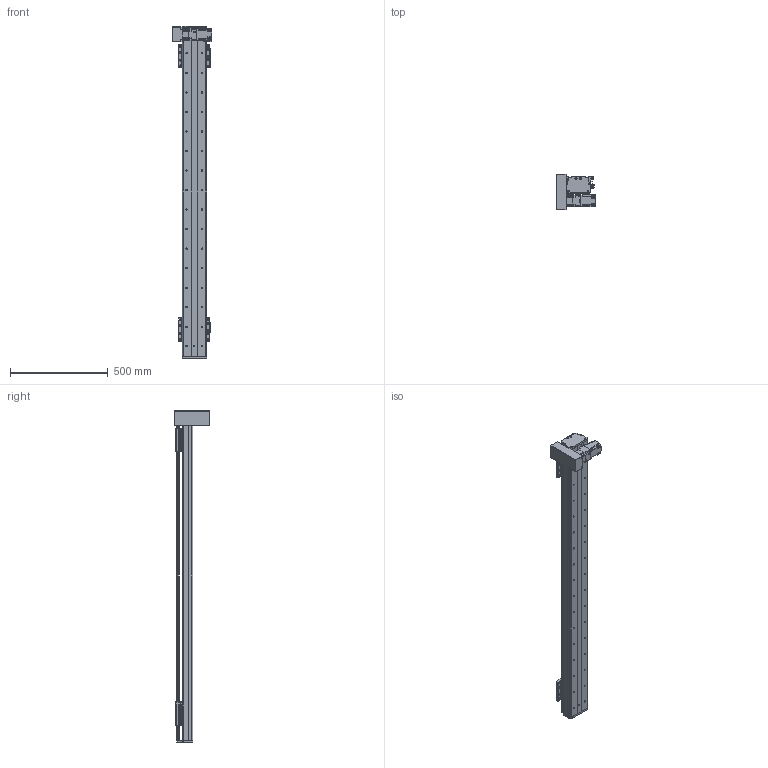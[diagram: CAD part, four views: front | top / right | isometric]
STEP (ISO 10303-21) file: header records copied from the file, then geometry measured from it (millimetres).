
FILE_DESCRIPTION(/* description */ (''),/* implementation_level */ '2;1');
FILE_NAME(/* name */ 'C:\Users\PC\Desktop\3D도면\STEP\DSB125-DL2G-W1400-R.stp',/* time_stamp */ '2018-06-21T14:53:02+09:00',/* author */ ('PC'),/* organization */ (''),/* preprocessor_version */ 'ST-DEVELOPER v16.5',/* originating_system */ 'Autodesk Inventor 2017',/* authorisation */ '');
FILE_SCHEMA (('AUTOMOTIVE_DESIGN { 1 0 10303 214 3 1 1 }'));
Length unit declared in the file: millimetre
Products named in the file (12): DSB125-L-300ST; DSR125-BASE(S-TYPE); DSR125-REAR COVER-R01(170203); DSR125-REAR COVER-R01(170203)_1; DSR125-UP COVER-R01(170203); hg-kr23_; ab0601-p0401200402; 13-BELT COVER; DSR126-SENSOR DOG; pm-y65_step; SENSOR BRACKET(EE-SX674A); DSR125-TABLE(MSA15X)
Assembly tree (16 placements, depth 2):
  DSB125-L-300ST
    DSR125-BASE(S-TYPE)
    DSR125-REAR COVER-R01(170203)
    DSR125-REAR COVER-R01(170203)_1
    DSR125-UP COVER-R01(170203)
    hg-kr23_
    ab0601-p0401200402
    13-BELT COVER
    DSR126-SENSOR DOG
    pm-y65_step  x3
    SENSOR BRACKET(EE-SX674A)  x3
    DSR125-TABLE(MSA15X)  x2
Bounding box: 202.1 x 182 x 1700 mm (x, y, z)
Volume: 5941662 mm3; surface area: 1710044.6 mm2
Topology: 17 solids, 22 shells, 1689 faces, 4571 edges, 3012 vertices
Faces by surface type: plane 908, cylinder 645, cone 124, sphere 8, torus 4
Full cylindrical faces by diameter (mm): 2.459 x20, 3.242 x16, 3.5 x6, 4 x1, 4.134 x16, 4.2 x4, 4.3 x1, 4.5 x50, 4.917 x20, 5 x27, 5.3 x1, 5.5 x4, 5.6 x8, 5.8 x4, 5.9 x8, 6 x4, 6.6 x22, 6.647 x34, 7.5 x32, 8.5 x8, 8.7 x1, 11 x22, 14 x1, 16 x2, 17 x1, 20 x1, 47 x1, 50 x3
Entity records: 35910 total; most frequent: CARTESIAN_POINT 6583, DIRECTION 6236, ORIENTED_EDGE 5534, EDGE_CURVE 2772, AXIS2_PLACEMENT_3D 2306, VERTEX_POINT 1981, EDGE_LOOP 1729, LINE 1624
